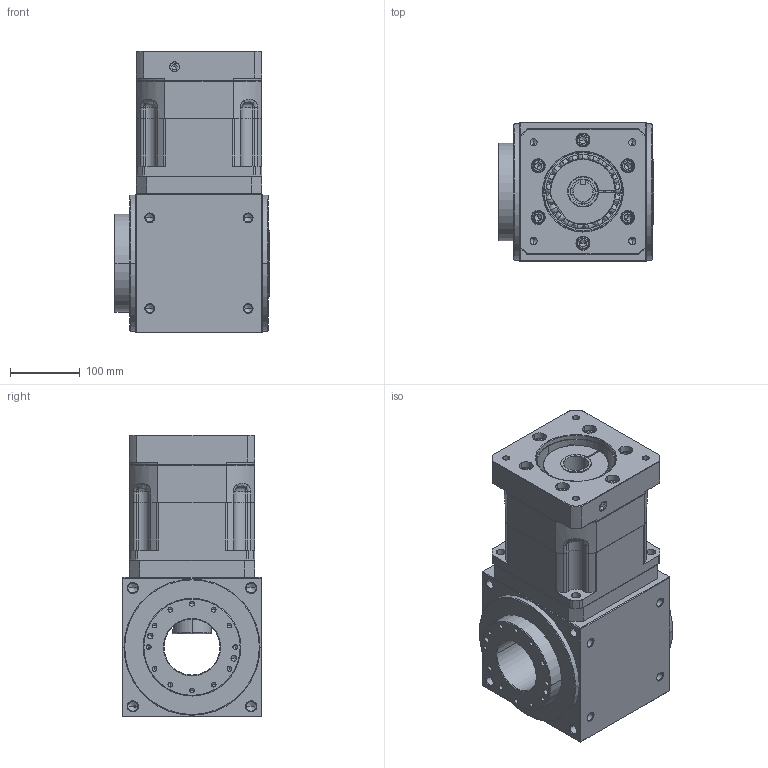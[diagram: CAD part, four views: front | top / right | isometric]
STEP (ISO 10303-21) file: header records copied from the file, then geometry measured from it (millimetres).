
FILE_DESCRIPTION (( 'STEP AP214' ), '1' );
FILE_NAME ('AAW200AS-L1-RF 35-114.3-200-M12.STEP', '2021-04-24T05:26:06', ( 'Microsoft' ), ( 'Microsoft China' ), 'SwSTEP 2.0', 'SolidWorks 2016', '' );
FILE_SCHEMA (( 'AUTOMOTIVE_DESIGN' ));
Length unit declared in the file: millimetre
Products named in the file (28): AAW200AS-L1-RF 35-114.3-200-M12; 齿圈Z108; Deep groove ball bearings GB_Rolling bearings 6215 GB 276-94; 怀堤粣5B; Deep groove ball bearings GB_Rolling bearings 61826 GB 276-94; 蚐猾75X130X12; 俴陎粣15.259; 幗渀粣創15.259X21.259; 俴陎謫菜え15.4X28; 俴陎謫5B; 笢潔楊擘; Deep groove ball bearings GB_Rolling bearings 6214 GB 276-94; 怮栠謫5B; Circlips for holes--Type A GB_GB_CONNECTING_PIECE_RING_RRH 130; Circlips for hole--Type B GB_GB_CONNECTING_PIECE_RINGS_CHB 110; 薊粣んD42K30; 萇儂楊擘D114.3M12; Hexagon socket head cap screws GB_GB_FASTENER_SCREWS_HSHCS M12X35-N; Plain parallel keys_GB_CONNECTING_PIECE_KEYS_CSK C8X22; Circlips for shaft--Type B GB_GB_CONNECTING_PIECE_RINGS_CSB 70; Hex socket set screws with flat point GB_GB_FASTENER_SCREWS_HSFP M16X20-N; Hexagon socket head cap screws GB_GB_FASTENER_SCREWS_HSHCS M10X55-N; Spring lock washers--Normal type GB_GB_FASTENER_WASHER_SW 10; Spring lock washers--Normal type GB_GB_FASTENER_WASHER_SW 12; 薊粣ん囀傍え42; 曹噤杶42-35; Hexagon socket head cap screws GB_GB_FASTENER_SCREWS_HSHCS M12X45-N; AAW200AS-L2-RF--22-110-145-M8
Assembly tree (61 placements, depth 2):
  AAW200AS-L1-RF 35-114.3-200-M12
    齿圈Z108
    Deep groove ball bearings GB_Rolling bearings 6215 GB 276-94
    怀堤粣5B
    Deep groove ball bearings GB_Rolling bearings 61826 GB 276-94
    蚐猾75X130X12
    俴陎粣15.259  x3
    幗渀粣創15.259X21.259  x4
    俴陎謫菜え15.4X28  x6
    俴陎謫5B  x3
    笢潔楊擘
    Deep groove ball bearings GB_Rolling bearings 6214 GB 276-94
    怮栠謫5B
    Circlips for holes--Type A GB_GB_CONNECTING_PIECE_RING_RRH 130
    Circlips for hole--Type B GB_GB_CONNECTING_PIECE_RINGS_CHB 110
    薊粣んD42K30
    萇儂楊擘D114.3M12
    Hexagon socket head cap screws GB_GB_FASTENER_SCREWS_HSHCS M12X35-N
    Plain parallel keys_GB_CONNECTING_PIECE_KEYS_CSK C8X22
    Circlips for shaft--Type B GB_GB_CONNECTING_PIECE_RINGS_CSB 70
    Hex socket set screws with flat point GB_GB_FASTENER_SCREWS_HSFP M16X20-N  x2
    Hexagon socket head cap screws GB_GB_FASTENER_SCREWS_HSHCS M10X55-N  x4
    Spring lock washers--Normal type GB_GB_FASTENER_WASHER_SW 10  x4
    Spring lock washers--Normal type GB_GB_FASTENER_WASHER_SW 12  x11
    薊粣ん囀傍え42
    曹噤杶42-35
    Hexagon socket head cap screws GB_GB_FASTENER_SCREWS_HSHCS M12X45-N  x6
    AAW200AS-L2-RF--22-110-145-M8
Bounding box: 223 x 200 x 404 mm (x, y, z)
Volume: 12517384.3 mm3; surface area: 1233961.2 mm2
Topology: 61 solids, 62 shells, 2204 faces, 6386 edges, 3940 vertices
Faces by surface type: cylinder 715, bspline 574, plane 545, cone 337, torus 33
Entity records: 99073 total; most frequent: CARTESIAN_POINT 36511, ORIENTED_EDGE 10052, DIRECTION 7691, EDGE_CURVE 5026, VERTEX_POINT 3275, AXIS2_PLACEMENT_3D 3203, EDGE_LOOP 1943, CIRCLE 1929
